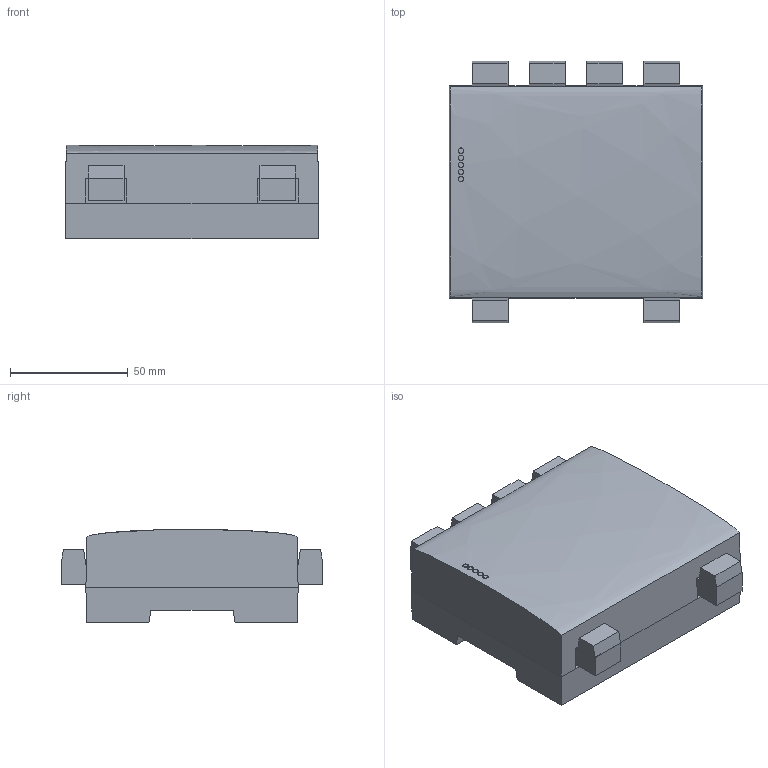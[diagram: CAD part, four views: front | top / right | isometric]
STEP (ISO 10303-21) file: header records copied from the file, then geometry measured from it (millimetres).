
FILE_DESCRIPTION(/* description */ ('STEP AP242 Edition 2','CAx-IF Rec.Pracs.---Representation and Presentation of Product Manufacturing Information (PMI)---4.0---2014-10-13','CAx-IF Rec.Pracs.---3D Tessellated Geometry---0.4---2014-09-14','2;1','CAx-IF Rec.Pracs.---User Defined Attributes---1.5---2016-08-15'),/* implementation_level */ '2;1');
FILE_NAME(/* name */ '69c2bfb7ef974f8eedcaba02',/* time_stamp */ '2026-03-24T16:45:44Z',/* author */ (''),/* organization */ (''),/* preprocessor_version */ 'ST-DEVELOPER v20',/* originating_system */ 'ONSHAPE BY PTC INC, 1.212',/* authorisation */ ' ');
FILE_SCHEMA (('AP242_MANAGED_MODEL_BASED_3D_ENGINEERING_MIM_LF { 1 0 10303 442 3 1 4 }'));
Length unit declared in the file: metre
Products named in the file (3): DIN_abs; 3pin_Mono; XPC
Assembly tree (7 placements, depth 2):
  DIN_abs
    3pin_Mono  x6
    XPC
Bounding box: 107.5 x 111 x 39.5 mm (x, y, z)
Volume: 365781.1 mm3; surface area: 41703.4 mm2
Topology: 7 solids, 7 shells, 114 faces, 273 edges, 178 vertices
Faces by surface type: plane 103, cylinder 10, bspline 1
Full cylindrical faces by diameter (mm): 2.3 x5
Entity records: 2001 total; most frequent: CARTESIAN_POINT 491, ORIENTED_EDGE 288, DIRECTION 274, EDGE_CURVE 144, LINE 132, VECTOR 132, VERTEX_POINT 94, EDGE_LOOP 74
